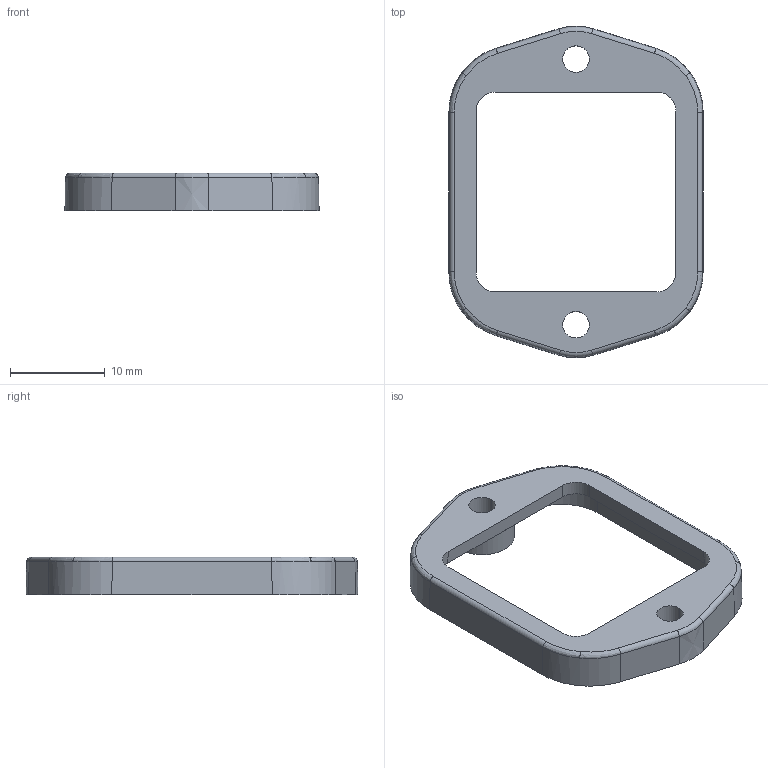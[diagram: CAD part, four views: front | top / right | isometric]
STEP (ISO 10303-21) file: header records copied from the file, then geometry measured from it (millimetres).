
FILE_DESCRIPTION (( 'STEP AP214' ), '1' );
FILE_NAME ('Z-EN50-B.stp', '2015-03-10T12:52:05', ( 'Orametrix' ), ( 'Orametrix' ), 'SwSTEP 2.0', 'SolidWorks 2014', '' );
FILE_SCHEMA (( 'AUTOMOTIVE_DESIGN' ));
Length unit declared in the file: millimetre
Products named in the file (2): Z-EN50-B
Bounding box: 26.8 x 35 x 4 mm (x, y, z)
Volume: 1085 mm3; surface area: 1566.3 mm2
Topology: 1 solids, 1 shells, 59 faces, 156 edges, 100 vertices
Faces by surface type: cylinder 24, plane 19, bspline 12, cone 2, torus 2
Entity records: 2230 total; most frequent: CARTESIAN_POINT 781, ORIENTED_EDGE 312, DIRECTION 260, EDGE_CURVE 156, VERTEX_POINT 100, AXIS2_PLACEMENT_3D 91, VECTOR 78, LINE 78
